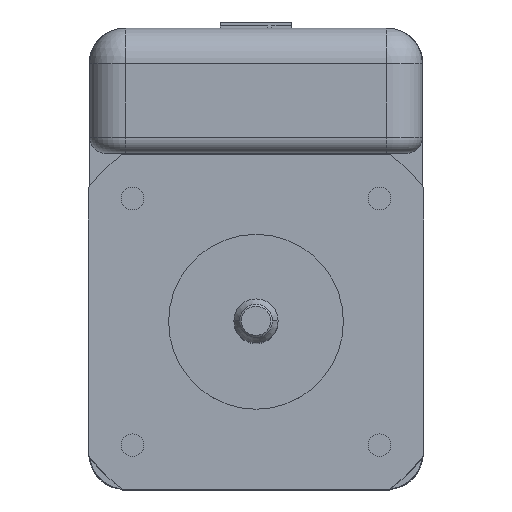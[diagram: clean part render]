
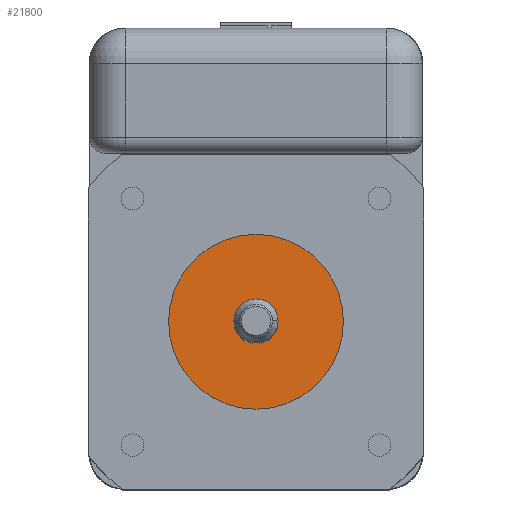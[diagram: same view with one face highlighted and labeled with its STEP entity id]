
A CAD part, top view. The second image highlights one B-rep face of the part: STEP entity #21800.
In plain terms, the highlighted planar face has unit normal (0, 0, 1).
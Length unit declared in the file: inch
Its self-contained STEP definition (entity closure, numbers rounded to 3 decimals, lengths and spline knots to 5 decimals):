
#3734 = EDGE_CURVE ( 'NONE', #50106, #10321, #29730, .T. ) ;
#4507 = CARTESIAN_POINT ( 'NONE',  ( 0., 0., 0.09 ) ) ;
#6165 = FACE_BOUND ( 'NONE', #35400, .T. ) ;
#6455 = DIRECTION ( 'NONE',  ( 0., 0., 1. ) ) ;
#6505 = PLANE ( 'NONE',  #32584 ) ;
#9597 = DIRECTION ( 'NONE',  ( 1., 0., 0. ) ) ;
#10321 = VERTEX_POINT ( 'NONE', #57778 ) ;
#11474 = VERTEX_POINT ( 'NONE', #51090 ) ;
#12317 = EDGE_LOOP ( 'NONE', ( #67444, #38932 ) ) ;
#13515 = CIRCLE ( 'NONE', #64719, 0.433 ) ;
#16394 = ORIENTED_EDGE ( 'NONE', *, *, #39684, .F. ) ;
#16427 = CARTESIAN_POINT ( 'NONE',  ( 0., 0., 0.09 ) ) ;
#16753 = AXIS2_PLACEMENT_3D ( 'NONE', #17052, #6455, #32703 ) ;
#17052 = CARTESIAN_POINT ( 'NONE',  ( 0., 0., 0.09 ) ) ;
#18556 = ORIENTED_EDGE ( 'NONE', *, *, #3734, .F. ) ;
#20757 = VERTEX_POINT ( 'NONE', #45730 ) ;
#21545 = FACE_OUTER_BOUND ( 'NONE', #12317, .T. ) ;
#21800 = ADVANCED_FACE ( 'NONE', ( #21545, #6165 ), #6505, .T. ) ;
#22223 = DIRECTION ( 'NONE',  ( 1., 0., 0. ) ) ;
#24589 = CIRCLE ( 'NONE', #42071, 0.433 ) ;
#29730 = CIRCLE ( 'NONE', #16753, 0.109 ) ;
#30215 = EDGE_CURVE ( 'NONE', #20757, #11474, #24589, .T. ) ;
#32584 = AXIS2_PLACEMENT_3D ( 'NONE', #16427, #33985, #22223 ) ;
#32703 = DIRECTION ( 'NONE',  ( 1., 0., 0. ) ) ;
#33985 = DIRECTION ( 'NONE',  ( 0., 0., 1. ) ) ;
#35131 = DIRECTION ( 'NONE',  ( 0., 0., 1. ) ) ;
#35400 = EDGE_LOOP ( 'NONE', ( #16394, #18556 ) ) ;
#37214 = DIRECTION ( 'NONE',  ( 0., 0., 1. ) ) ;
#38932 = ORIENTED_EDGE ( 'NONE', *, *, #30215, .T. ) ;
#39471 = EDGE_CURVE ( 'NONE', #11474, #20757, #13515, .T. ) ;
#39684 = EDGE_CURVE ( 'NONE', #10321, #50106, #48407, .T. ) ;
#42071 = AXIS2_PLACEMENT_3D ( 'NONE', #44707, #35131, #44369 ) ;
#44369 = DIRECTION ( 'NONE',  ( 1., 0., 0. ) ) ;
#44707 = CARTESIAN_POINT ( 'NONE',  ( 0., 0., 0.09 ) ) ;
#45730 = CARTESIAN_POINT ( 'NONE',  ( 0.433, 0., 0.09 ) ) ;
#48407 = CIRCLE ( 'NONE', #54905, 0.109 ) ;
#50106 = VERTEX_POINT ( 'NONE', #64710 ) ;
#51090 = CARTESIAN_POINT ( 'NONE',  ( -0.433, 0., 0.09 ) ) ;
#54905 = AXIS2_PLACEMENT_3D ( 'NONE', #4507, #37214, #66926 ) ;
#55671 = CARTESIAN_POINT ( 'NONE',  ( 0., 0., 0.09 ) ) ;
#57778 = CARTESIAN_POINT ( 'NONE',  ( 0.109, 0., 0.09 ) ) ;
#61469 = DIRECTION ( 'NONE',  ( 0., 0., 1. ) ) ;
#64710 = CARTESIAN_POINT ( 'NONE',  ( -0.109, 0., 0.09 ) ) ;
#64719 = AXIS2_PLACEMENT_3D ( 'NONE', #55671, #61469, #9597 ) ;
#66926 = DIRECTION ( 'NONE',  ( 1., 0., 0. ) ) ;
#67444 = ORIENTED_EDGE ( 'NONE', *, *, #39471, .T. ) ;
